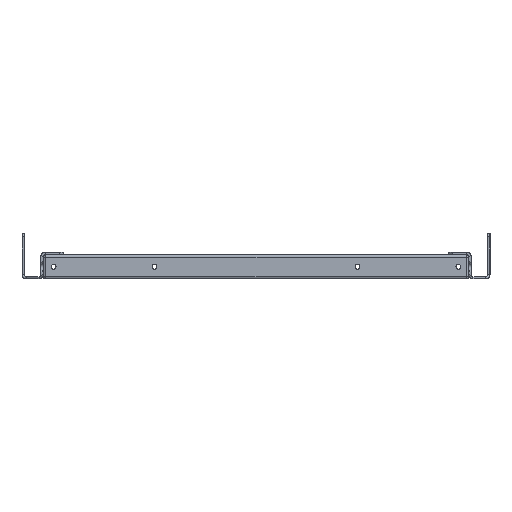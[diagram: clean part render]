
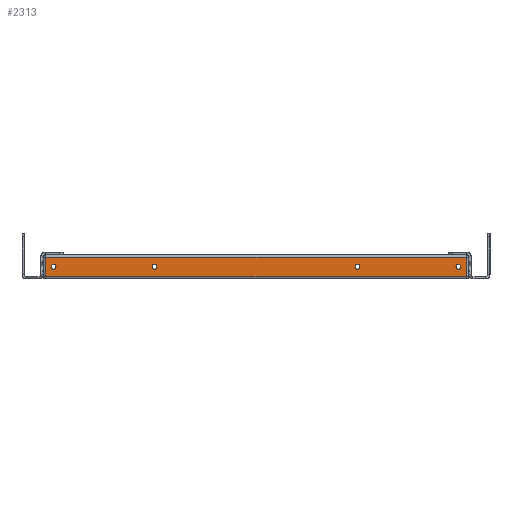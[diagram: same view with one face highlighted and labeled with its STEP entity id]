
A CAD part, left-side view. The second image highlights one B-rep face of the part: STEP entity #2313.
In plain terms, the highlighted planar face has unit normal (-1, 0, 0).
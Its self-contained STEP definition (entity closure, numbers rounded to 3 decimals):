
#118 = DIRECTION ( 'NONE',  ( 0., 0., 1. ) ) ;
#191 = VERTEX_POINT ( 'NONE', #568 ) ;
#196 = CARTESIAN_POINT ( 'NONE',  ( -225., -83.5, 12. ) ) ;
#354 = EDGE_CURVE ( 'NONE', #11554, #5599, #9145, .T. ) ;
#442 = EDGE_CURVE ( 'NONE', #1428, #191, #3374, .T. ) ;
#473 = DIRECTION ( 'NONE',  ( 1., 0., 0. ) ) ;
#493 = ORIENTED_EDGE ( 'NONE', *, *, #2164, .T. ) ;
#514 = VERTEX_POINT ( 'NONE', #11115 ) ;
#568 = CARTESIAN_POINT ( 'NONE',  ( -225., 83.5, 12. ) ) ;
#680 = CIRCLE ( 'NONE', #8348, 2. ) ;
#761 = AXIS2_PLACEMENT_3D ( 'NONE', #6944, #4082, #9861 ) ;
#777 = DIRECTION ( 'NONE',  ( 0., 0., 1. ) ) ;
#879 = DIRECTION ( 'NONE',  ( 0., 0., 1. ) ) ;
#948 = CARTESIAN_POINT ( 'NONE',  ( -225., -166.5, 10. ) ) ;
#1052 = AXIS2_PLACEMENT_3D ( 'NONE', #3335, #473, #4229 ) ;
#1090 = LINE ( 'NONE', #9701, #11800 ) ;
#1227 = AXIS2_PLACEMENT_3D ( 'NONE', #948, #3717, #777 ) ;
#1259 = DIRECTION ( 'NONE',  ( -1., 0., 0. ) ) ;
#1428 = VERTEX_POINT ( 'NONE', #11445 ) ;
#1549 = CIRCLE ( 'NONE', #2774, 2. ) ;
#1947 = CARTESIAN_POINT ( 'NONE',  ( -225., -83.5, 10. ) ) ;
#1973 = CARTESIAN_POINT ( 'NONE',  ( -225., 83.5, 10. ) ) ;
#2164 = EDGE_CURVE ( 'NONE', #5599, #11554, #680, .T. ) ;
#2313 = ADVANCED_FACE ( 'NONE', ( #8004, #10327, #11868, #6945, #11097 ), #9141, .F. ) ;
#2557 = DIRECTION ( 'NONE',  ( 0., 0., -1. ) ) ;
#2644 = CIRCLE ( 'NONE', #1052, 2. ) ;
#2774 = AXIS2_PLACEMENT_3D ( 'NONE', #10413, #6563, #11323 ) ;
#2814 = VERTEX_POINT ( 'NONE', #196 ) ;
#2974 = DIRECTION ( 'NONE',  ( -1., 0., 0. ) ) ;
#3052 = ORIENTED_EDGE ( 'NONE', *, *, #5438, .F. ) ;
#3143 = VERTEX_POINT ( 'NONE', #7560 ) ;
#3170 = EDGE_CURVE ( 'NONE', #2814, #8141, #5102, .T. ) ;
#3335 = CARTESIAN_POINT ( 'NONE',  ( -225., -83.5, 10. ) ) ;
#3374 = CIRCLE ( 'NONE', #5787, 2. ) ;
#3389 = LINE ( 'NONE', #5326, #12398 ) ;
#3559 = EDGE_CURVE ( 'NONE', #12084, #9475, #8167, .T. ) ;
#3709 = CIRCLE ( 'NONE', #6684, 2. ) ;
#3717 = DIRECTION ( 'NONE',  ( 1., 0., 0. ) ) ;
#4024 = CARTESIAN_POINT ( 'NONE',  ( -225., -83.5, 8. ) ) ;
#4025 = CIRCLE ( 'NONE', #7163, 2. ) ;
#4052 = DIRECTION ( 'NONE',  ( 0., 0., 1. ) ) ;
#4082 = DIRECTION ( 'NONE',  ( 1., 0., 0. ) ) ;
#4229 = DIRECTION ( 'NONE',  ( 0., 0., 1. ) ) ;
#4468 = CARTESIAN_POINT ( 'NONE',  ( -225., 173., 20. ) ) ;
#4584 = EDGE_LOOP ( 'NONE', ( #4645, #11902 ) ) ;
#4645 = ORIENTED_EDGE ( 'NONE', *, *, #3170, .T. ) ;
#4749 = LINE ( 'NONE', #9943, #8232 ) ;
#4780 = ORIENTED_EDGE ( 'NONE', *, *, #442, .F. ) ;
#4784 = ORIENTED_EDGE ( 'NONE', *, *, #5900, .T. ) ;
#4809 = CARTESIAN_POINT ( 'NONE',  ( -225., 173., 2. ) ) ;
#5102 = CIRCLE ( 'NONE', #7390, 2. ) ;
#5184 = CARTESIAN_POINT ( 'NONE',  ( -225., 166.5, 10. ) ) ;
#5205 = ORIENTED_EDGE ( 'NONE', *, *, #9819, .F. ) ;
#5326 = CARTESIAN_POINT ( 'NONE',  ( -225., 175., 18. ) ) ;
#5438 = EDGE_CURVE ( 'NONE', #3143, #7685, #4025, .T. ) ;
#5558 = ORIENTED_EDGE ( 'NONE', *, *, #354, .T. ) ;
#5599 = VERTEX_POINT ( 'NONE', #7287 ) ;
#5713 = VERTEX_POINT ( 'NONE', #11641 ) ;
#5741 = DIRECTION ( 'NONE',  ( 1., 0., 0. ) ) ;
#5787 = AXIS2_PLACEMENT_3D ( 'NONE', #1973, #2974, #118 ) ;
#5900 = EDGE_CURVE ( 'NONE', #9475, #514, #1090, .T. ) ;
#6037 = VECTOR ( 'NONE', #2557, 1000. ) ;
#6556 = EDGE_CURVE ( 'NONE', #191, #1428, #3709, .T. ) ;
#6563 = DIRECTION ( 'NONE',  ( -1., 0., 0. ) ) ;
#6684 = AXIS2_PLACEMENT_3D ( 'NONE', #6848, #11834, #10665 ) ;
#6848 = CARTESIAN_POINT ( 'NONE',  ( -225., 83.5, 10. ) ) ;
#6944 = CARTESIAN_POINT ( 'NONE',  ( -225., -175., 20. ) ) ;
#6945 = FACE_BOUND ( 'NONE', #8742, .T. ) ;
#7163 = AXIS2_PLACEMENT_3D ( 'NONE', #5184, #1259, #4052 ) ;
#7287 = CARTESIAN_POINT ( 'NONE',  ( -225., -166.5, 8. ) ) ;
#7390 = AXIS2_PLACEMENT_3D ( 'NONE', #1947, #5741, #879 ) ;
#7560 = CARTESIAN_POINT ( 'NONE',  ( -225., 166.5, 8. ) ) ;
#7685 = VERTEX_POINT ( 'NONE', #8864 ) ;
#8004 = FACE_BOUND ( 'NONE', #10827, .T. ) ;
#8141 = VERTEX_POINT ( 'NONE', #4024 ) ;
#8167 = LINE ( 'NONE', #4468, #6037 ) ;
#8221 = EDGE_LOOP ( 'NONE', ( #5205, #3052 ) ) ;
#8232 = VECTOR ( 'NONE', #12025, 1000. ) ;
#8348 = AXIS2_PLACEMENT_3D ( 'NONE', #10676, #8654, #12629 ) ;
#8654 = DIRECTION ( 'NONE',  ( 1., 0., 0. ) ) ;
#8742 = EDGE_LOOP ( 'NONE', ( #5558, #493 ) ) ;
#8828 = DIRECTION ( 'NONE',  ( 0., -1., 0. ) ) ;
#8864 = CARTESIAN_POINT ( 'NONE',  ( -225., 166.5, 12. ) ) ;
#9141 = PLANE ( 'NONE',  #761 ) ;
#9145 = CIRCLE ( 'NONE', #1227, 2. ) ;
#9206 = DIRECTION ( 'NONE',  ( 0., 1., 0. ) ) ;
#9475 = VERTEX_POINT ( 'NONE', #4809 ) ;
#9701 = CARTESIAN_POINT ( 'NONE',  ( -225., -175., 2. ) ) ;
#9819 = EDGE_CURVE ( 'NONE', #7685, #3143, #1549, .T. ) ;
#9823 = ORIENTED_EDGE ( 'NONE', *, *, #11086, .T. ) ;
#9861 = DIRECTION ( 'NONE',  ( 0., 0., -1. ) ) ;
#9943 = CARTESIAN_POINT ( 'NONE',  ( -225., -173., 20. ) ) ;
#10327 = FACE_BOUND ( 'NONE', #8221, .T. ) ;
#10413 = CARTESIAN_POINT ( 'NONE',  ( -225., 166.5, 10. ) ) ;
#10463 = EDGE_CURVE ( 'NONE', #8141, #2814, #2644, .T. ) ;
#10665 = DIRECTION ( 'NONE',  ( 0., 0., 1. ) ) ;
#10676 = CARTESIAN_POINT ( 'NONE',  ( -225., -166.5, 10. ) ) ;
#10827 = EDGE_LOOP ( 'NONE', ( #10921, #4780 ) ) ;
#10921 = ORIENTED_EDGE ( 'NONE', *, *, #6556, .F. ) ;
#10943 = CARTESIAN_POINT ( 'NONE',  ( -225., 173., 18. ) ) ;
#11086 = EDGE_CURVE ( 'NONE', #514, #5713, #4749, .T. ) ;
#11097 = FACE_BOUND ( 'NONE', #4584, .T. ) ;
#11115 = CARTESIAN_POINT ( 'NONE',  ( -225., -173., 2. ) ) ;
#11323 = DIRECTION ( 'NONE',  ( 0., 0., 1. ) ) ;
#11445 = CARTESIAN_POINT ( 'NONE',  ( -225., 83.5, 8. ) ) ;
#11462 = ORIENTED_EDGE ( 'NONE', *, *, #11580, .T. ) ;
#11496 = ORIENTED_EDGE ( 'NONE', *, *, #3559, .T. ) ;
#11554 = VERTEX_POINT ( 'NONE', #12185 ) ;
#11580 = EDGE_CURVE ( 'NONE', #5713, #12084, #3389, .T. ) ;
#11641 = CARTESIAN_POINT ( 'NONE',  ( -225., -173., 18. ) ) ;
#11800 = VECTOR ( 'NONE', #8828, 1000. ) ;
#11834 = DIRECTION ( 'NONE',  ( -1., 0., 0. ) ) ;
#11868 = FACE_OUTER_BOUND ( 'NONE', #12450, .T. ) ;
#11902 = ORIENTED_EDGE ( 'NONE', *, *, #10463, .T. ) ;
#12025 = DIRECTION ( 'NONE',  ( 0., 0., 1. ) ) ;
#12084 = VERTEX_POINT ( 'NONE', #10943 ) ;
#12185 = CARTESIAN_POINT ( 'NONE',  ( -225., -166.5, 12. ) ) ;
#12398 = VECTOR ( 'NONE', #9206, 1000. ) ;
#12450 = EDGE_LOOP ( 'NONE', ( #9823, #11462, #11496, #4784 ) ) ;
#12629 = DIRECTION ( 'NONE',  ( 0., 0., 1. ) ) ;
